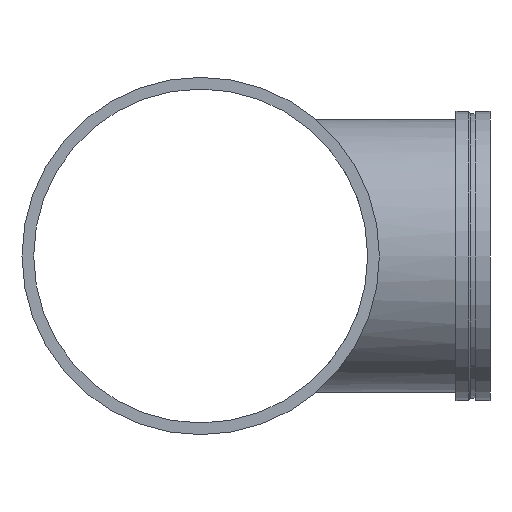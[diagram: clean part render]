
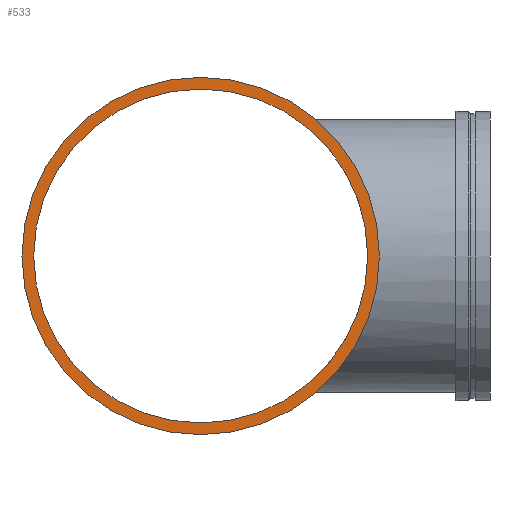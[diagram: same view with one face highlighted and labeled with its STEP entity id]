
A CAD part, left-side view. The second image highlights one B-rep face of the part: STEP entity #533.
In plain terms, the highlighted planar face has unit normal (-1, 0, 0).
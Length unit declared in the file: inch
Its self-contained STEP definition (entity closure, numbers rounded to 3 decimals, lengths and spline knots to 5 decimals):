
#58=FACE_BOUND('',#128,.T.);
#67=PLANE('',#626);
#92=FACE_OUTER_BOUND('',#127,.T.);
#127=EDGE_LOOP('',(#465,#466));
#128=EDGE_LOOP('',(#467,#468));
#151=CIRCLE('',#587,21.);
#152=CIRCLE('',#588,21.);
#175=CIRCLE('',#624,19.625);
#176=CIRCLE('',#625,19.625);
#239=VERTEX_POINT('',#1145);
#240=VERTEX_POINT('',#1147);
#263=VERTEX_POINT('',#1214);
#264=VERTEX_POINT('',#1216);
#299=EDGE_CURVE('',#239,#240,#151,.T.);
#300=EDGE_CURVE('',#240,#239,#152,.T.);
#331=EDGE_CURVE('',#264,#263,#175,.T.);
#332=EDGE_CURVE('',#263,#264,#176,.T.);
#465=ORIENTED_EDGE('',*,*,#300,.F.);
#466=ORIENTED_EDGE('',*,*,#299,.F.);
#467=ORIENTED_EDGE('',*,*,#331,.T.);
#468=ORIENTED_EDGE('',*,*,#332,.T.);
#533=ADVANCED_FACE('',(#92,#58),#67,.T.);
#587=AXIS2_PLACEMENT_3D('',#1148,#716,#717);
#588=AXIS2_PLACEMENT_3D('',#1149,#718,#719);
#624=AXIS2_PLACEMENT_3D('',#1217,#798,#799);
#625=AXIS2_PLACEMENT_3D('',#1218,#800,#801);
#626=AXIS2_PLACEMENT_3D('',#1219,#802,#803);
#716=DIRECTION('center_axis',(1.,0.,0.));
#717=DIRECTION('ref_axis',(0.,0.,1.));
#718=DIRECTION('center_axis',(1.,0.,0.));
#719=DIRECTION('ref_axis',(0.,0.,1.));
#798=DIRECTION('center_axis',(1.,0.,0.));
#799=DIRECTION('ref_axis',(0.,0.,1.));
#800=DIRECTION('center_axis',(1.,0.,0.));
#801=DIRECTION('ref_axis',(0.,0.,1.));
#802=DIRECTION('center_axis',(-1.,0.,0.));
#803=DIRECTION('ref_axis',(0.,0.,-1.));
#1145=CARTESIAN_POINT('',(-35.5,21.,0.));
#1147=CARTESIAN_POINT('',(-35.5,-21.,0.));
#1148=CARTESIAN_POINT('Origin',(-35.5,0.,0.));
#1149=CARTESIAN_POINT('Origin',(-35.5,0.,0.));
#1214=CARTESIAN_POINT('',(-35.5,19.625,0.));
#1216=CARTESIAN_POINT('',(-35.5,-19.625,0.));
#1217=CARTESIAN_POINT('Origin',(-35.5,0.,0.));
#1218=CARTESIAN_POINT('Origin',(-35.5,0.,0.));
#1219=CARTESIAN_POINT('Origin',(-35.5,-21.,0.));
